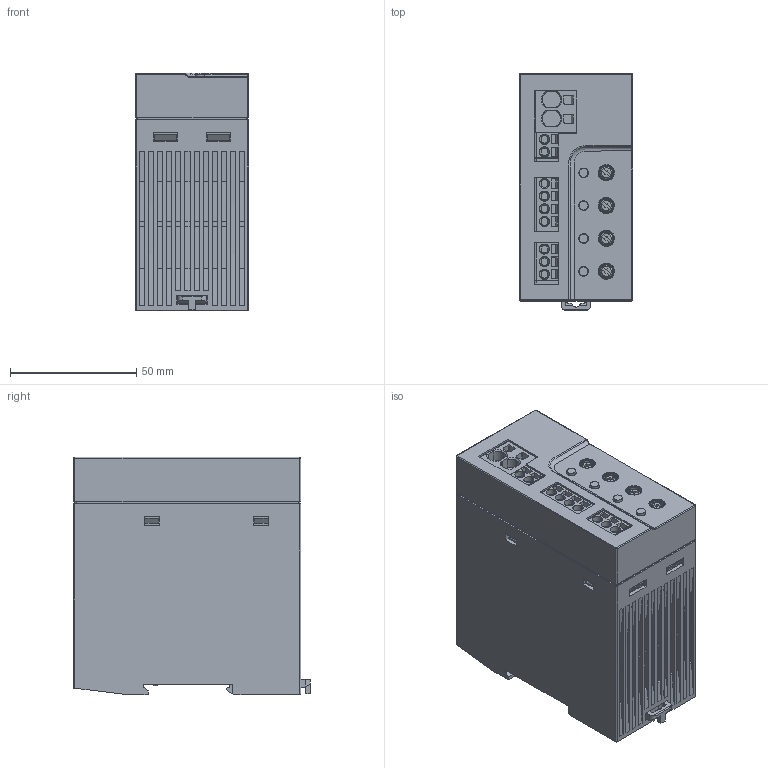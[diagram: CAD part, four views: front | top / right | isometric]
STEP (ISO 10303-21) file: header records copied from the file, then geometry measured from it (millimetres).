
FILE_DESCRIPTION (( 'STEP AP214' ), '1' );
FILE_NAME ('JHBDC24-40 µ×1222.STEP', '2023-11-29T01:20:05', ( 'admin' ), ( '' ), 'SwSTEP 2.0', 'SolidWorks 2022', '' );
FILE_SCHEMA (( 'AUTOMOTIVE_DESIGN' ));
Products named in the file (1): JHBDC24-40 菁1222
Bounding box: 44.8 x 93.79 x 94 mm (x, y, z)
Volume: 349178.7 mm3; surface area: 56953.6 mm2
Topology: 1 solids, 1 shells, 1314 faces, 3665 edges, 2431 vertices
Faces by surface type: plane 951, cylinder 262, bspline 56, cone 45
Entity records: 49659 total; most frequent: CARTESIAN_POINT 18235, ORIENTED_EDGE 7330, DIRECTION 5143, EDGE_CURVE 3665, VERTEX_POINT 2431, LINE 2337, VECTOR 2337, EDGE_LOOP 1458
